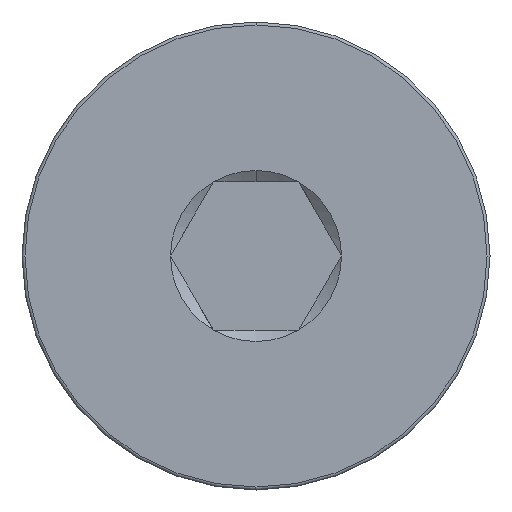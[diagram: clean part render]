
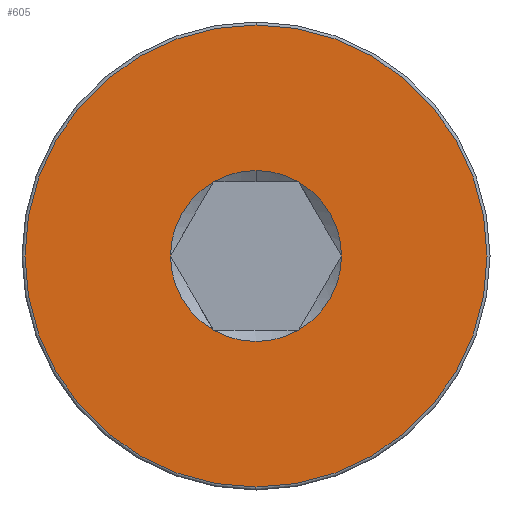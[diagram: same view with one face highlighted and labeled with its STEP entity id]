
A CAD part, left-side view. The second image highlights one B-rep face of the part: STEP entity #605.
In plain terms, the highlighted planar face has unit normal (-1, 0, 0).
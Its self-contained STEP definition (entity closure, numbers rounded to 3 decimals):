
#5 = CIRCLE ( 'NONE', #527, 7.8 ) ;
#27 = DIRECTION ( 'NONE',  ( 1., 0., 0. ) ) ;
#28 = ORIENTED_EDGE ( 'NONE', *, *, #82, .T. ) ;
#35 = PLANE ( 'NONE',  #177 ) ;
#38 = VERTEX_POINT ( 'NONE', #144 ) ;
#47 = AXIS2_PLACEMENT_3D ( 'NONE', #157, #165, #218 ) ;
#48 = CARTESIAN_POINT ( 'NONE',  ( 0., 0., 0. ) ) ;
#67 = DIRECTION ( 'NONE',  ( 0., 0., 1. ) ) ;
#72 = CIRCLE ( 'NONE', #737, 2.887 ) ;
#79 = ORIENTED_EDGE ( 'NONE', *, *, #430, .T. ) ;
#81 = CARTESIAN_POINT ( 'NONE',  ( 0., 2.887, 0. ) ) ;
#82 = EDGE_CURVE ( 'NONE', #352, #695, #378, .T. ) ;
#89 = EDGE_CURVE ( 'NONE', #773, #38, #5, .T. ) ;
#94 = DIRECTION ( 'NONE',  ( 1., 0., 0. ) ) ;
#100 = CIRCLE ( 'NONE', #47, 2.887 ) ;
#122 = CARTESIAN_POINT ( 'NONE',  ( 0., 0., 2.887 ) ) ;
#123 = EDGE_CURVE ( 'NONE', #440, #352, #790, .T. ) ;
#131 = VERTEX_POINT ( 'NONE', #81 ) ;
#144 = CARTESIAN_POINT ( 'NONE',  ( 0., 0., 7.8 ) ) ;
#145 = EDGE_CURVE ( 'NONE', #268, #440, #417, .T. ) ;
#157 = CARTESIAN_POINT ( 'NONE',  ( 0., 0., 0. ) ) ;
#165 = DIRECTION ( 'NONE',  ( 1., 0., 0. ) ) ;
#177 = AXIS2_PLACEMENT_3D ( 'NONE', #475, #643, #336 ) ;
#183 = DIRECTION ( 'NONE',  ( 0., 0., 1. ) ) ;
#191 = CARTESIAN_POINT ( 'NONE',  ( 0., 0., 0. ) ) ;
#218 = DIRECTION ( 'NONE',  ( 0., 0., -1. ) ) ;
#219 = EDGE_LOOP ( 'NONE', ( #282, #424, #308, #28, #623, #641, #79 ) ) ;
#223 = FACE_BOUND ( 'NONE', #219, .T. ) ;
#229 = DIRECTION ( 'NONE',  ( 1., 0., 0. ) ) ;
#240 = DIRECTION ( 'NONE',  ( 0., 0., -1. ) ) ;
#243 = CARTESIAN_POINT ( 'NONE',  ( 0., -1.443, -2.5 ) ) ;
#247 = CARTESIAN_POINT ( 'NONE',  ( 0., 0., 0. ) ) ;
#251 = CIRCLE ( 'NONE', #350, 2.887 ) ;
#258 = EDGE_CURVE ( 'NONE', #131, #268, #72, .T. ) ;
#263 = AXIS2_PLACEMENT_3D ( 'NONE', #716, #229, #591 ) ;
#268 = VERTEX_POINT ( 'NONE', #524 ) ;
#282 = ORIENTED_EDGE ( 'NONE', *, *, #258, .T. ) ;
#284 = CARTESIAN_POINT ( 'NONE',  ( 0., 0., 0. ) ) ;
#288 = EDGE_CURVE ( 'NONE', #420, #630, #100, .T. ) ;
#303 = AXIS2_PLACEMENT_3D ( 'NONE', #438, #390, #675 ) ;
#308 = ORIENTED_EDGE ( 'NONE', *, *, #123, .T. ) ;
#317 = AXIS2_PLACEMENT_3D ( 'NONE', #48, #655, #183 ) ;
#336 = DIRECTION ( 'NONE',  ( 0., 0., 1. ) ) ;
#350 = AXIS2_PLACEMENT_3D ( 'NONE', #491, #792, #240 ) ;
#352 = VERTEX_POINT ( 'NONE', #374 ) ;
#374 = CARTESIAN_POINT ( 'NONE',  ( 0., -1.443, 2.5 ) ) ;
#378 = CIRCLE ( 'NONE', #681, 2.887 ) ;
#387 = CARTESIAN_POINT ( 'NONE',  ( 0., 0., 0. ) ) ;
#390 = DIRECTION ( 'NONE',  ( 1., 0., 0. ) ) ;
#417 = CIRCLE ( 'NONE', #303, 2.887 ) ;
#419 = CIRCLE ( 'NONE', #317, 7.8 ) ;
#420 = VERTEX_POINT ( 'NONE', #243 ) ;
#424 = ORIENTED_EDGE ( 'NONE', *, *, #145, .T. ) ;
#430 = EDGE_CURVE ( 'NONE', #630, #131, #251, .T. ) ;
#438 = CARTESIAN_POINT ( 'NONE',  ( 0., 0., 0. ) ) ;
#439 = ORIENTED_EDGE ( 'NONE', *, *, #89, .T. ) ;
#440 = VERTEX_POINT ( 'NONE', #122 ) ;
#475 = CARTESIAN_POINT ( 'NONE',  ( 0., 0., 0. ) ) ;
#491 = CARTESIAN_POINT ( 'NONE',  ( 0., 0., 0. ) ) ;
#496 = DIRECTION ( 'NONE',  ( 0., 0., -1. ) ) ;
#512 = CARTESIAN_POINT ( 'NONE',  ( 0., 1.443, -2.5 ) ) ;
#524 = CARTESIAN_POINT ( 'NONE',  ( 0., 1.443, 2.5 ) ) ;
#527 = AXIS2_PLACEMENT_3D ( 'NONE', #387, #740, #67 ) ;
#544 = DIRECTION ( 'NONE',  ( 0., 0., -1. ) ) ;
#578 = DIRECTION ( 'NONE',  ( 0., 0., -1. ) ) ;
#583 = CIRCLE ( 'NONE', #263, 2.887 ) ;
#591 = DIRECTION ( 'NONE',  ( 0., 0., -1. ) ) ;
#595 = EDGE_CURVE ( 'NONE', #695, #420, #583, .T. ) ;
#602 = CARTESIAN_POINT ( 'NONE',  ( 0., 0., -7.8 ) ) ;
#605 = ADVANCED_FACE ( 'NONE', ( #223, #709 ), #35, .T. ) ;
#623 = ORIENTED_EDGE ( 'NONE', *, *, #595, .T. ) ;
#630 = VERTEX_POINT ( 'NONE', #512 ) ;
#641 = ORIENTED_EDGE ( 'NONE', *, *, #288, .T. ) ;
#643 = DIRECTION ( 'NONE',  ( -1., 0., 0. ) ) ;
#655 = DIRECTION ( 'NONE',  ( -1., 0., 0. ) ) ;
#665 = DIRECTION ( 'NONE',  ( 1., 0., 0. ) ) ;
#675 = DIRECTION ( 'NONE',  ( 0., 0., -1. ) ) ;
#681 = AXIS2_PLACEMENT_3D ( 'NONE', #191, #665, #544 ) ;
#693 = AXIS2_PLACEMENT_3D ( 'NONE', #247, #27, #496 ) ;
#695 = VERTEX_POINT ( 'NONE', #719 ) ;
#709 = FACE_OUTER_BOUND ( 'NONE', #769, .T. ) ;
#716 = CARTESIAN_POINT ( 'NONE',  ( 0., 0., 0. ) ) ;
#719 = CARTESIAN_POINT ( 'NONE',  ( 0., -2.887, 0. ) ) ;
#737 = AXIS2_PLACEMENT_3D ( 'NONE', #284, #94, #578 ) ;
#740 = DIRECTION ( 'NONE',  ( -1., 0., 0. ) ) ;
#741 = ORIENTED_EDGE ( 'NONE', *, *, #775, .T. ) ;
#769 = EDGE_LOOP ( 'NONE', ( #741, #439 ) ) ;
#773 = VERTEX_POINT ( 'NONE', #602 ) ;
#775 = EDGE_CURVE ( 'NONE', #38, #773, #419, .T. ) ;
#790 = CIRCLE ( 'NONE', #693, 2.887 ) ;
#792 = DIRECTION ( 'NONE',  ( 1., 0., 0. ) ) ;
